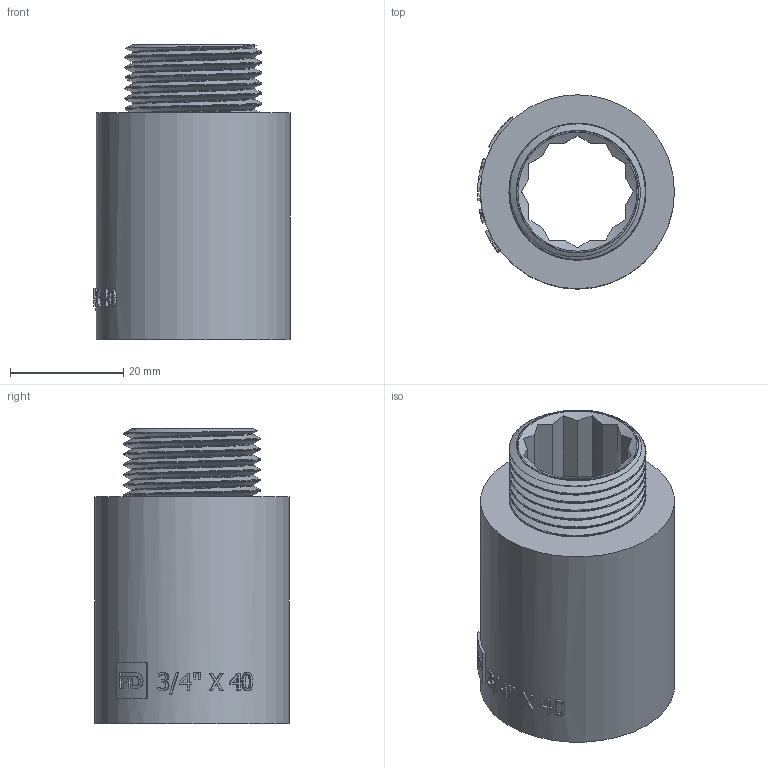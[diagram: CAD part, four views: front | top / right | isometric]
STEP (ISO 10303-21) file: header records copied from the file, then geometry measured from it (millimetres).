
FILE_DESCRIPTION(/* description */ (''),/* implementation_level */ '2;1');
FILE_NAME(/* name */ 'C:\Users\Doom\Desktop\Фадотех\Резьба\UN40 18.03.2020\UN40 18.03.2020.stp',/* time_stamp */ '2022-01-22T13:40:17+02:00',/* author */ ('Doom'),/* organization */ (''),/* preprocessor_version */ 'ST-DEVELOPER v18',/* originating_system */ 'Autodesk Inventor 2020',/* authorisation */ '');
FILE_SCHEMA (('AUTOMOTIVE_DESIGN { 1 0 10303 214 3 1 1 }'));
Length unit declared in the file: millimetre
Products named in the file (1): UD40 18.03.2020
Bounding box: 34.7 x 34.2 x 52 mm (x, y, z)
Volume: 19638.8 mm3; surface area: 17425.1 mm2
Topology: 3 solids, 3 shells, 200 faces, 548 edges, 368 vertices
Faces by surface type: plane 91, bspline 66, cylinder 39, cone 4
Full cylindrical faces by diameter (mm): 21.44 x2, 23.75 x10, 24.1 x1, 24.13 x5, 26.44 x2, 34.2 x1
Entity records: 16994 total; most frequent: CARTESIAN_POINT 12463, ORIENTED_EDGE 1088, DIRECTION 686, EDGE_CURVE 544, VERTEX_POINT 366, AXIS2_PLACEMENT_3D 239, EDGE_LOOP 222, LINE 208
